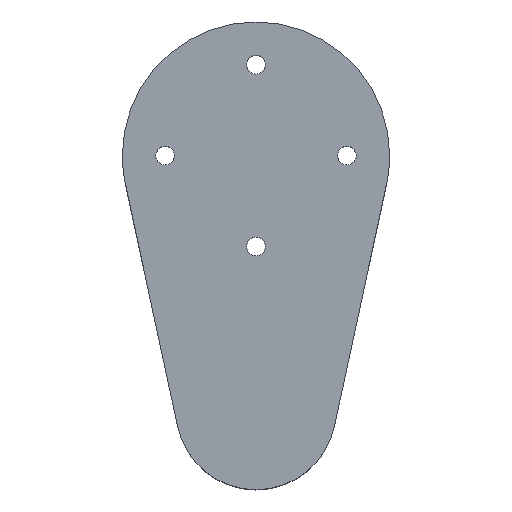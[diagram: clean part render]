
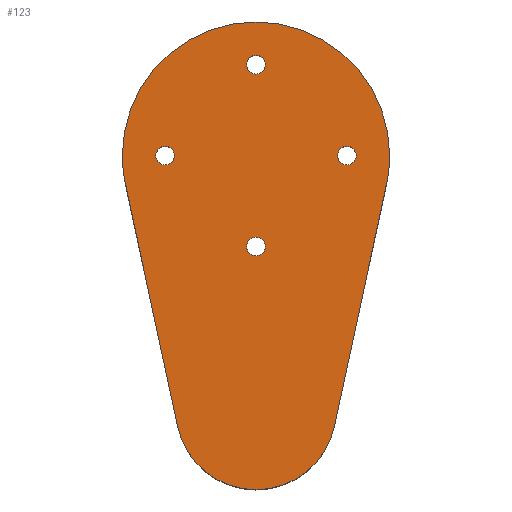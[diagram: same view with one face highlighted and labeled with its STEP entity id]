
A CAD part, top view. The second image highlights one B-rep face of the part: STEP entity #123.
In plain terms, the highlighted planar face has unit normal (0, 0, 1).
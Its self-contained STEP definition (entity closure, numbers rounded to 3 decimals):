
#4 = EDGE_LOOP ( 'NONE', ( #113, #245 ) ) ;
#5 = AXIS2_PLACEMENT_3D ( 'NONE', #398, #32, #489 ) ;
#9 = EDGE_CURVE ( 'NONE', #513, #419, #24, .T. ) ;
#11 = DIRECTION ( 'NONE',  ( 0., 0., 1. ) ) ;
#12 = VERTEX_POINT ( 'NONE', #301 ) ;
#21 = DIRECTION ( 'NONE',  ( 0., 0., 1. ) ) ;
#22 = CARTESIAN_POINT ( 'NONE',  ( 0., -19., 12. ) ) ;
#24 = CIRCLE ( 'NONE', #325, 0.7 ) ;
#31 = FACE_BOUND ( 'NONE', #171, .T. ) ;
#32 = DIRECTION ( 'NONE',  ( 0., 0., 1. ) ) ;
#35 = VECTOR ( 'NONE', #230, 1000. ) ;
#40 = CARTESIAN_POINT ( 'NONE',  ( 5.866, -20.263, 12. ) ) ;
#48 = CIRCLE ( 'NONE', #223, 6. ) ;
#52 = ORIENTED_EDGE ( 'NONE', *, *, #181, .T. ) ;
#56 = VERTEX_POINT ( 'NONE', #70 ) ;
#64 = EDGE_LOOP ( 'NONE', ( #177, #332 ) ) ;
#70 = CARTESIAN_POINT ( 'NONE',  ( -5.866, -20.263, 12. ) ) ;
#71 = VERTEX_POINT ( 'NONE', #549 ) ;
#73 = CARTESIAN_POINT ( 'NONE',  ( 0., 0., 12. ) ) ;
#74 = EDGE_CURVE ( 'NONE', #409, #466, #534, .T. ) ;
#78 = CIRCLE ( 'NONE', #402, 0.7 ) ;
#79 = FACE_OUTER_BOUND ( 'NONE', #156, .T. ) ;
#80 = CIRCLE ( 'NONE', #204, 0.7 ) ;
#81 = ORIENTED_EDGE ( 'NONE', *, *, #546, .T. ) ;
#83 = ORIENTED_EDGE ( 'NONE', *, *, #471, .F. ) ;
#91 = VERTEX_POINT ( 'NONE', #162 ) ;
#99 = AXIS2_PLACEMENT_3D ( 'NONE', #241, #244, #201 ) ;
#100 = DIRECTION ( 'NONE',  ( 1., 0., 0. ) ) ;
#102 = EDGE_CURVE ( 'NONE', #12, #436, #239, .T. ) ;
#107 = AXIS2_PLACEMENT_3D ( 'NONE', #73, #212, #384 ) ;
#113 = ORIENTED_EDGE ( 'NONE', *, *, #9, .F. ) ;
#114 = DIRECTION ( 'NONE',  ( 0., 0., 1. ) ) ;
#115 = DIRECTION ( 'NONE',  ( 0., 0., 1. ) ) ;
#123 = ADVANCED_FACE ( 'NONE', ( #469, #554, #31, #520, #79 ), #381, .T. ) ;
#129 = EDGE_CURVE ( 'NONE', #260, #186, #394, .T. ) ;
#137 = AXIS2_PLACEMENT_3D ( 'NONE', #310, #421, #350 ) ;
#142 = LINE ( 'NONE', #40, #213 ) ;
#148 = CARTESIAN_POINT ( 'NONE',  ( -0.7, 6.8, 12. ) ) ;
#156 = EDGE_LOOP ( 'NONE', ( #81, #509, #247, #165, #347, #52 ) ) ;
#162 = CARTESIAN_POINT ( 'NONE',  ( 9.776, -2.105, 12. ) ) ;
#164 = DIRECTION ( 'NONE',  ( 0., 0., 1. ) ) ;
#165 = ORIENTED_EDGE ( 'NONE', *, *, #129, .T. ) ;
#171 = EDGE_LOOP ( 'NONE', ( #413, #291 ) ) ;
#177 = ORIENTED_EDGE ( 'NONE', *, *, #74, .F. ) ;
#181 = EDGE_CURVE ( 'NONE', #71, #56, #222, .T. ) ;
#184 = CARTESIAN_POINT ( 'NONE',  ( -10., 0., 12. ) ) ;
#186 = VERTEX_POINT ( 'NONE', #184 ) ;
#187 = CARTESIAN_POINT ( 'NONE',  ( 5.866, -20.263, 12. ) ) ;
#190 = EDGE_CURVE ( 'NONE', #242, #91, #142, .T. ) ;
#201 = DIRECTION ( 'NONE',  ( 1., 0., 0. ) ) ;
#204 = AXIS2_PLACEMENT_3D ( 'NONE', #383, #21, #211 ) ;
#207 = DIRECTION ( 'NONE',  ( 1., 0., 0. ) ) ;
#211 = DIRECTION ( 'NONE',  ( 1., 0., 0. ) ) ;
#212 = DIRECTION ( 'NONE',  ( 0., 0., 1. ) ) ;
#213 = VECTOR ( 'NONE', #396, 1000. ) ;
#216 = EDGE_CURVE ( 'NONE', #560, #339, #568, .T. ) ;
#217 = DIRECTION ( 'NONE',  ( 1., 0., 0. ) ) ;
#222 = LINE ( 'NONE', #227, #35 ) ;
#223 = AXIS2_PLACEMENT_3D ( 'NONE', #565, #504, #292 ) ;
#225 = DIRECTION ( 'NONE',  ( 1., 0., 0. ) ) ;
#227 = CARTESIAN_POINT ( 'NONE',  ( -5.866, -20.263, 12. ) ) ;
#230 = DIRECTION ( 'NONE',  ( 0.211, -0.978, 0. ) ) ;
#232 = DIRECTION ( 'NONE',  ( 0., 0., 1. ) ) ;
#238 = CARTESIAN_POINT ( 'NONE',  ( 0., -6.8, 12. ) ) ;
#239 = CIRCLE ( 'NONE', #430, 0.7 ) ;
#241 = CARTESIAN_POINT ( 'NONE',  ( 0., 0., 12. ) ) ;
#242 = VERTEX_POINT ( 'NONE', #187 ) ;
#244 = DIRECTION ( 'NONE',  ( 0., 0., 1. ) ) ;
#245 = ORIENTED_EDGE ( 'NONE', *, *, #518, .F. ) ;
#247 = ORIENTED_EDGE ( 'NONE', *, *, #392, .T. ) ;
#253 = CARTESIAN_POINT ( 'NONE',  ( 6.8, 0., 12. ) ) ;
#260 = VERTEX_POINT ( 'NONE', #435 ) ;
#280 = CARTESIAN_POINT ( 'NONE',  ( 0.7, 6.8, 12. ) ) ;
#287 = CIRCLE ( 'NONE', #99, 10. ) ;
#291 = ORIENTED_EDGE ( 'NONE', *, *, #102, .F. ) ;
#292 = DIRECTION ( 'NONE',  ( 1., 0., 0. ) ) ;
#296 = CARTESIAN_POINT ( 'NONE',  ( -6.8, 0., 12. ) ) ;
#299 = CIRCLE ( 'NONE', #501, 0.7 ) ;
#301 = CARTESIAN_POINT ( 'NONE',  ( -6.1, 0., 12. ) ) ;
#304 = EDGE_CURVE ( 'NONE', #466, #409, #299, .T. ) ;
#305 = DIRECTION ( 'NONE',  ( 1., 0., 0. ) ) ;
#310 = CARTESIAN_POINT ( 'NONE',  ( 0., -6.8, 12. ) ) ;
#315 = CARTESIAN_POINT ( 'NONE',  ( 6.1, 0., 12. ) ) ;
#320 = CIRCLE ( 'NONE', #475, 10. ) ;
#325 = AXIS2_PLACEMENT_3D ( 'NONE', #253, #115, #217 ) ;
#328 = CARTESIAN_POINT ( 'NONE',  ( -6.8, 0., 12. ) ) ;
#329 = ORIENTED_EDGE ( 'NONE', *, *, #216, .F. ) ;
#332 = ORIENTED_EDGE ( 'NONE', *, *, #304, .F. ) ;
#339 = VERTEX_POINT ( 'NONE', #280 ) ;
#340 = DIRECTION ( 'NONE',  ( 0., 0., 1. ) ) ;
#343 = DIRECTION ( 'NONE',  ( 1., 0., 0. ) ) ;
#347 = ORIENTED_EDGE ( 'NONE', *, *, #562, .T. ) ;
#350 = DIRECTION ( 'NONE',  ( 1., 0., 0. ) ) ;
#361 = DIRECTION ( 'NONE',  ( 1., 0., 0. ) ) ;
#363 = CARTESIAN_POINT ( 'NONE',  ( -0.7, -6.8, 12. ) ) ;
#381 = PLANE ( 'NONE',  #411 ) ;
#383 = CARTESIAN_POINT ( 'NONE',  ( 6.8, 0., 12. ) ) ;
#384 = DIRECTION ( 'NONE',  ( 1., 0., 0. ) ) ;
#392 = EDGE_CURVE ( 'NONE', #91, #260, #287, .T. ) ;
#394 = CIRCLE ( 'NONE', #107, 10. ) ;
#396 = DIRECTION ( 'NONE',  ( 0.211, 0.978, 0. ) ) ;
#398 = CARTESIAN_POINT ( 'NONE',  ( 0., 6.8, 12. ) ) ;
#402 = AXIS2_PLACEMENT_3D ( 'NONE', #328, #340, #207 ) ;
#409 = VERTEX_POINT ( 'NONE', #363 ) ;
#411 = AXIS2_PLACEMENT_3D ( 'NONE', #22, #164, #343 ) ;
#413 = ORIENTED_EDGE ( 'NONE', *, *, #416, .F. ) ;
#416 = EDGE_CURVE ( 'NONE', #436, #12, #78, .T. ) ;
#419 = VERTEX_POINT ( 'NONE', #425 ) ;
#421 = DIRECTION ( 'NONE',  ( 0., 0., 1. ) ) ;
#425 = CARTESIAN_POINT ( 'NONE',  ( 7.5, 0., 12. ) ) ;
#430 = AXIS2_PLACEMENT_3D ( 'NONE', #296, #464, #305 ) ;
#435 = CARTESIAN_POINT ( 'NONE',  ( 10., 0., 12. ) ) ;
#436 = VERTEX_POINT ( 'NONE', #551 ) ;
#438 = AXIS2_PLACEMENT_3D ( 'NONE', #511, #114, #225 ) ;
#445 = EDGE_LOOP ( 'NONE', ( #329, #83 ) ) ;
#464 = DIRECTION ( 'NONE',  ( 0., 0., 1. ) ) ;
#466 = VERTEX_POINT ( 'NONE', #506 ) ;
#469 = FACE_BOUND ( 'NONE', #445, .T. ) ;
#471 = EDGE_CURVE ( 'NONE', #339, #560, #559, .T. ) ;
#475 = AXIS2_PLACEMENT_3D ( 'NONE', #488, #232, #361 ) ;
#488 = CARTESIAN_POINT ( 'NONE',  ( 0., 0., 12. ) ) ;
#489 = DIRECTION ( 'NONE',  ( 1., 0., 0. ) ) ;
#501 = AXIS2_PLACEMENT_3D ( 'NONE', #238, #11, #100 ) ;
#504 = DIRECTION ( 'NONE',  ( 0., 0., 1. ) ) ;
#506 = CARTESIAN_POINT ( 'NONE',  ( 0.7, -6.8, 12. ) ) ;
#509 = ORIENTED_EDGE ( 'NONE', *, *, #190, .T. ) ;
#511 = CARTESIAN_POINT ( 'NONE',  ( 0., 6.8, 12. ) ) ;
#513 = VERTEX_POINT ( 'NONE', #315 ) ;
#518 = EDGE_CURVE ( 'NONE', #419, #513, #80, .T. ) ;
#520 = FACE_BOUND ( 'NONE', #64, .T. ) ;
#534 = CIRCLE ( 'NONE', #137, 0.7 ) ;
#546 = EDGE_CURVE ( 'NONE', #56, #242, #48, .T. ) ;
#549 = CARTESIAN_POINT ( 'NONE',  ( -9.776, -2.105, 12. ) ) ;
#551 = CARTESIAN_POINT ( 'NONE',  ( -7.5, 0., 12. ) ) ;
#554 = FACE_BOUND ( 'NONE', #4, .T. ) ;
#559 = CIRCLE ( 'NONE', #438, 0.7 ) ;
#560 = VERTEX_POINT ( 'NONE', #148 ) ;
#562 = EDGE_CURVE ( 'NONE', #186, #71, #320, .T. ) ;
#565 = CARTESIAN_POINT ( 'NONE',  ( 0., -19., 12. ) ) ;
#568 = CIRCLE ( 'NONE', #5, 0.7 ) ;
